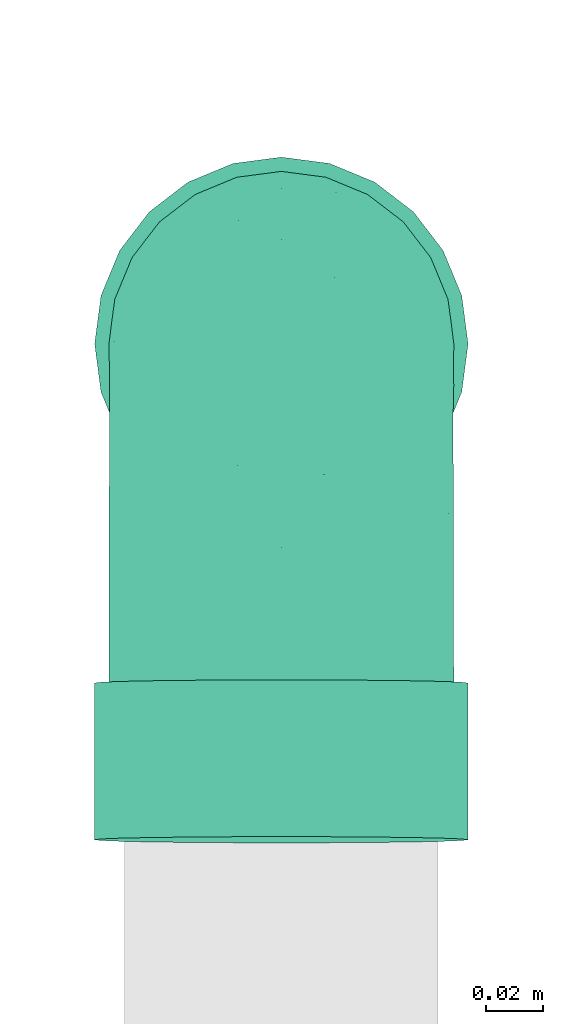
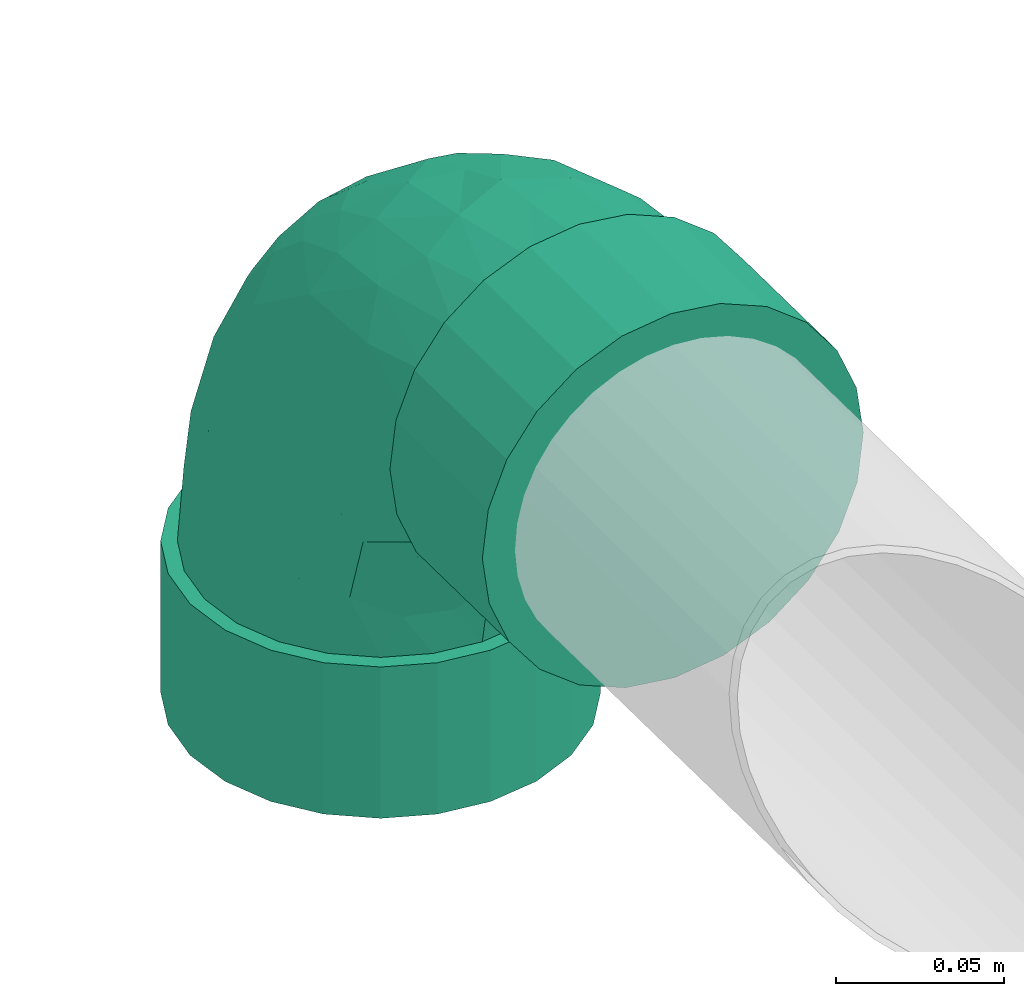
# One storey, part 12 of 13: 1 flow fitting.
"""IFC2X3 building model written with IfcOpenShell, lengths in millimetres."""

from ifc_helpers import new_model, entity, si_unit, converted_unit, derived_unit, direction, frame, origin_with_axes, place, context, subcontext, project, spatial, open_shell, surface_model, source, transform, mapped, type_object, element, save


model = new_model("IFC2X3")

# Units and contexts
model_context = context("Model", 3, precision=0.01, world=frame((0.0, 4.29681676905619e-09, 0.0)), true_north=direction((4.01073788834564e-13, 1.0)))
plan_context = context("Plan", 3, precision=0.01, world=frame((0.0, 4.29681676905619e-09, 0.0)), true_north=direction((4.01073788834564e-13, 1.0)))
body_context = subcontext(model_context, "Body", "Model", "MODEL_VIEW")
ifc_project = project(units=[converted_unit("PLANEANGLEUNIT", "DEGREE", entity("IfcPositiveLengthMeasure", 0.0174532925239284), si_unit("PLANEANGLEUNIT", "RADIAN"), dimensions=[0, 0, 0, 0, 0, 0, 0]), si_unit("AREAUNIT", "SQUARE_METRE"), si_unit("LENGTHUNIT", "METRE", prefix="MILLI"), si_unit("MASSUNIT", "GRAM", prefix="KILO"), si_unit("POWERUNIT", "WATT"), si_unit("PRESSUREUNIT", "PASCAL", prefix="KILO"), si_unit("FORCEUNIT", "NEWTON", prefix="KILO"), si_unit("ELECTRICVOLTAGEUNIT", "VOLT"), si_unit("ELECTRICCURRENTUNIT", "AMPERE"), si_unit("THERMODYNAMICTEMPERATUREUNIT", "DEGREE_CELSIUS"), si_unit("TIMEUNIT", "SECOND"), si_unit("VOLUMEUNIT", "CUBIC_METRE"), derived_unit("LINEARVELOCITYUNIT", [(si_unit("LENGTHUNIT", "METRE"), 1), (si_unit("TIMEUNIT", "SECOND"), -1)]), derived_unit("VOLUMETRICFLOWRATEUNIT", [(si_unit("VOLUMEUNIT", "CUBIC_METRE"), 1), (si_unit("TIMEUNIT", "SECOND"), -1)]), derived_unit("THERMALTRANSMITTANCEUNIT", [(si_unit("POWERUNIT", "WATT"), 1), (si_unit("THERMODYNAMICTEMPERATUREUNIT", "KELVIN"), -1), (si_unit("AREAUNIT", "SQUARE_METRE"), -1)]), derived_unit("SOUNDPRESSUREUNIT", [(si_unit("PRESSUREUNIT", "PASCAL"), 1)])], contexts=[model_context, plan_context])

# Site, building, storey
site_placement = place(None, frame((0.0, -4.29681676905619e-09, 0.0), z_axis=(0.0, 0.0, 1.0), x_axis=(1.0, 0.0, 0.0)))
site = spatial("IfcSite", under=ifc_project, at=site_placement, Name="ENGM", CompositionType="ELEMENT")
building_placement = place(site_placement, frame((0.0, 4.29681676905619e-09, 0.0), z_axis=(0.0, 0.0, 1.0), x_axis=(1.0, 0.0, 0.0)))
building = spatial("IfcBuilding", under=site, at=building_placement, Name="TI", CompositionType="ELEMENT")
storey_placement = place(building_placement, frame((0.0, 0.0, 210900.0), z_axis=(0.0, 0.0, 1.0), x_axis=(1.0, 0.0, 0.0)))
storey = spatial("IfcBuildingStorey", under=building, at=storey_placement, Name="Nivå F", CompositionType="ELEMENT", Elevation=210900.0)

# Flow fitting
pipe_fitting_type = type_object("IfcPipeFittingType", Name="magi_sewer_bend_001", PredefinedType="BEND")
shared_shape = source(origin_with_axes(), body_context, "Body", "SurfaceModel", [
    surface_model("IfcShellBasedSurfaceModel", [(-174.00014, -16.95265, -63.26814), (-174.00014, -32.75, -56.72466), (-174.00014, -46.3155, -46.3155), (-174.00014, -63.26814, -16.95265), (-174.00014, 63.26814, 16.95265), (-174.00014, 46.3155, -46.3155), (-174.00014, -56.72466, -32.75), (-174.00014, 16.95265, -63.26814), (-174.00014, 0.0, -65.5), (-174.00014, 32.75, -56.72466), (-174.00014, 56.72466, -32.75), (-174.00014, 65.5, 0.0), (-174.00014, 63.26814, -16.95265), (-174.00014, -65.5, 0.0), (-174.00014, -56.72466, 32.75), (-174.00014, -46.3155, 46.3155), (-174.00014, -16.95265, 63.26814), (-174.00014, -32.75, 56.72466), (-174.00014, 0.0, 65.5), (-174.00014, 46.3155, 46.3155), (-174.00014, 56.72466, 32.75), (-174.00014, 16.95265, 63.26814), (-174.00014, 32.75, 56.72466), (-174.00014, -63.26814, 16.95265), (-119.00014, -16.95265, 63.26814), (-119.00014, 16.95265, 63.26814), (-119.00014, 0.0, 65.5), (-119.00014, -46.3155, 46.3155), (-119.00014, -32.75, 56.72466), (-119.00014, -56.72466, 32.75), (-119.00014, -63.26814, 16.95265), (-119.00014, 63.26814, 16.95265), (-119.00014, 46.3155, 46.3155), (-119.00014, 32.75, 56.72466), (-119.00014, 56.72466, 32.75), (-119.00014, 65.5, 0.0), (-119.00014, -65.5, 0.0), (-119.00014, -63.26814, -16.95265), (-119.00014, 46.3155, -46.3155), (-119.00014, -46.3155, -46.3155), (-119.00014, -56.72466, -32.75), (-119.00014, -32.75, -56.72466), (-119.00014, -16.95265, -63.26814), (-119.00014, 56.72466, -32.75), (-119.00014, 63.26814, -16.95265), (-119.00014, 16.95265, -63.26814), (-119.00014, 32.75, -56.72466), (-119.00014, 0.0, -65.5), (-60.35976, 175.0303, 16.95265), (-53.81719, 174.92126, 32.75), (-43.40946, 174.7478, 46.3155), (-14.05069, 174.25848, 63.26814), (-62.59131, 175.06749, 0.0), (-29.84585, 174.52174, 56.72466), (2.8996, 173.97597, 65.5), (-53.81719, 174.92126, -32.75), (-60.35976, 175.0303, -16.95265), (-43.40946, 174.7478, -46.3155), (-29.84585, 174.52174, -56.72466), (2.8996, 173.97597, -65.5), (-14.05069, 174.25848, -63.26814), (19.84989, 173.69347, 63.26814), (35.64505, 173.43022, 56.72466), (49.20866, 173.20416, 46.3155), (19.84989, 173.69347, -63.26814), (66.15896, 172.92166, 16.95265), (68.3905, 172.88447, 0.0), (59.61639, 173.0307, 32.75), (49.20866, 173.20416, -46.3155), (35.64505, 173.43022, -56.72466), (66.15896, 172.92166, -16.95265), (59.61639, 173.0307, -32.75), (65.24242, 117.92929, 16.95265), (18.93335, 118.70111, -63.26814), (67.47397, 117.8921, 0.0), (48.29212, 118.2118, 46.3155), (58.69985, 118.03833, 32.75), (34.72851, 118.43786, 56.72466), (18.93335, 118.70111, 63.26814), (-30.76239, 119.52937, -56.72466), (65.24242, 117.92929, -16.95265), (48.29212, 118.2118, -46.3155), (58.69985, 118.03833, -32.75), (34.72851, 118.43786, -56.72466), (1.98306, 118.98362, -65.5), (-14.96723, 119.26612, 63.26814), (-61.2763, 120.03794, 16.95265), (-30.76239, 119.52937, 56.72466), (-44.326, 119.75544, 46.3155), (-54.73373, 119.92889, 32.75), (-44.326, 119.75544, -46.3155), (-14.96723, 119.26612, -63.26814), (-61.2763, 120.03794, -16.95265), (-54.73373, 119.92889, -32.75), (-63.50784, 120.07513, 0.0), (1.98306, 118.98362, 65.5), (-119.00014, 15.65855, -58.43851), (-119.00014, 0.0, -60.5), (-119.00014, 58.43851, -15.65855), (-119.00014, 30.25, -52.39454), (-119.00014, 52.39454, -30.25), (-119.00014, 42.77996, -42.77996), (-119.00014, -60.5, 0.0), (-119.00014, -30.25, -52.39454), (-119.00014, -42.77996, -42.77996), (-119.00014, -15.65855, -58.43851), (-119.00014, -58.43851, -15.65855), (-119.00014, -52.39454, -30.25), (-119.00014, -58.43851, 15.65855), (-119.00014, 58.43851, 15.65855), (-119.00014, 52.39454, 30.25), (-119.00014, 42.77996, 42.77996), (-119.00014, 30.25, 52.39454), (-119.00014, 15.65855, 58.43851), (-119.00014, -52.39454, 30.25), (-119.00014, -42.77996, 42.77996), (-119.00014, -30.25, 52.39454), (-119.00014, -15.65855, 58.43851), (-119.00014, 0.0, 60.5), (-119.00014, 60.5, 0.0), (1.98306, 118.98362, -60.5), (-13.67332, 119.24456, -58.43851), (-28.26274, 119.48771, -52.39454), (-40.79096, 119.69651, -42.77996), (-50.4042, 119.85674, -30.25), (-56.44734, 119.95745, -15.65855), (62.47466, 117.97542, 0.0), (32.22886, 118.47951, -52.39454), (54.37032, 118.1105, -30.25), (44.75708, 118.27072, -42.77996), (17.63944, 118.72268, -58.43851), (60.41346, 118.00978, -15.65855), (60.41346, 118.00978, 15.65855), (-56.44734, 119.95745, 15.65855), (-28.26274, 119.48771, 52.39454), (-50.4042, 119.85674, 30.25), (-40.79096, 119.69651, 42.77996), (-13.67332, 119.24456, 58.43851), (54.37032, 118.1105, 30.25), (32.22886, 118.47951, 52.39454), (44.75708, 118.27072, 42.77996), (17.63944, 118.72268, 58.43851), (1.98306, 118.98362, 60.5), (-58.50854, 119.9918, 0.0), (-86.96867, -47.00972, 34.00968), (-80.7819, -53.24129, 19.16737), (-72.5116, -54.44534, 0.0), (-89.08726, -56.60415, 0.0), (39.10086, 50.19741, 30.53174), (28.46675, 46.66826, 41.37372), (27.10486, 26.26643, 28.93951), (15.6131, 45.13, 50.36408), (15.04575, 19.2865, 37.76291), (-86.89894, -22.84389, 54.44468), (-45.38391, -14.85887, 50.36408), (-58.84928, -0.69632, 58.67437), (36.10726, 76.60456, 45.09177), (-77.19562, -34.82568, 45.09177), (-43.38966, -41.835, 15.30069), (-50.81815, -45.56532, 0.0), (-29.12469, -36.6853, 0.0), (-60.04164, 103.94237, 10.26064), (-68.71247, 84.86452, 13.0505), (-55.18446, 104.31342, 25.11937), (-103.01513, 36.62698, 49.25858), (-92.74998, 50.41099, 39.65912), (-81.72606, 68.63628, 21.03712), (-72.26232, 71.22128, 29.68156), (-20.02581, 58.58896, 60.3682), (-43.60086, 44.33359, 58.98152), (-35.10512, 25.97135, 60.22491), (-90.76971, -8.01993, 59.47818), (-20.87515, 103.00241, 56.64972), (-6.82454, 88.78959, 60.3476), (-82.9744, 9.26658, 60.39266), (-86.23765, 60.09892, 31.18136), (-99.51292, 59.70606, 21.14965), (-103.45871, 61.66716, 10.01393), (-84.31894, 70.43622, 9.89467), (-26.71447, -26.66338, 28.93951), (-19.53455, -14.72227, 37.76291), (-47.08157, -27.47335, 41.55099), (-76.57813, 77.86506, 0.0), (-96.08086, 65.00931, 0.0), (-91.33639, 23.74801, 57.13701), (-14.77502, 39.18153, 59.39632), (-28.69984, 11.00861, 56.62258), (-4.83421, 31.85984, 55.60311), (-9.89114, 10.05736, 49.62576), (44.13038, 45.82007, 14.96218), (55.64614, 71.59424, 0.0), (54.58007, 79.88344, 19.16737), (-64.95987, 25.67993, 59.41108), (-58.07521, 14.73739, 60.48167), (48.45247, 86.17322, 34.00968), (9.53143, 90.62347, 59.47818), (-50.84203, -38.25892, 30.53174), (58.08087, 88.13162, 0.0), (-48.14306, 76.43599, 47.63822), (-48.04586, 96.6209, 39.32696), (-62.58244, 66.82421, 42.77739), (-24.73556, 80.88675, 57.58424), (-63.39916, 97.15086, 0.0), (-36.69505, 92.46993, 50.11681), (-44.22551, 64.7195, 53.93366), (24.28883, 86.50619, 54.44468), (-63.12434, 40.58831, 55.92424), (-63.07462, 53.90164, 50.27785), (-81.88762, 40.91876, 50.87764), (-33.87244, 62.01368, 57.93391), (1.67691, 58.82951, 58.67437), (6.44015, -6.54838, 17.55786), (-10.4294, -22.54506, 0.0), (8.2659, -8.40481, 0.0), (23.51883, 13.41447, 18.60777), (13.30477, 6.6046, 27.47303), (-13.80454, -23.29202, 18.60777), (22.71573, 10.05225, 0.0), (-0.56725, 0.57678, 36.95386), (-3.90739, -10.13033, 28.29631), (37.16555, 28.50931, 0.0), (-60.70932, 85.30803, 29.80333), (46.40584, 50.05178, 0.0), (-99.55393, 36.96913, -49.52575), (-47.13616, -27.6851, -41.37372), (-45.38391, -14.85887, -50.36407), (-19.53455, -14.72227, -37.76291), (-88.66354, 8.30321, -60.3476), (24.28883, 86.50619, -54.44468), (15.6131, 45.12999, -50.36407), (1.6769, 58.8295, -58.67437), (-102.64024, 22.58872, -56.64972), (-68.71247, 84.86451, -13.0505), (-98.93529, 61.77779, -15.53658), (-60.04164, 103.94237, -10.26064), (-84.31894, 70.43622, -9.89467), (-50.84204, -38.25892, -30.53174), (-26.71447, -26.66338, -28.93951), (-56.98453, 48.01392, -54.99058), (-61.32494, 34.41782, -58.07217), (-76.37995, 43.81612, -50.8173), (-77.19562, -34.82568, -45.09177), (-58.24711, 20.99937, -60.3682), (-43.60086, 44.33359, -58.98152), (-25.38274, 35.53304, -60.22491), (-92.31551, 50.53005, -39.70651), (-80.7819, -53.24129, -19.16737), (-57.91698, 100.1219, -21.77038), (-59.85683, 85.88116, -30.55746), (-39.53074, 63.79195, -55.92424), (-22.22265, 91.71946, -57.13701), (-24.59385, 65.37879, -59.41108), (-86.96867, -47.00972, -34.00968), (-13.76756, 58.31273, -60.48167), (-86.89894, -22.84389, -54.44468), (-62.11182, 55.94126, -49.64549), (-39.54847, 82.55812, -50.87764), (-46.54912, -43.36069, -14.96218), (36.10726, 76.60456, -45.09177), (28.25413, 46.6172, -41.55099), (-90.76971, -8.01993, -59.47818), (-96.22555, 57.40199, -28.34878), (-76.12545, 65.40938, -32.8631), (48.45247, 86.17321, -34.00968), (39.10086, 50.19741, -30.53174), (-81.72606, 68.63628, -21.03712), (-7.88258, 83.1173, -60.39266), (27.10486, 26.26643, -28.93951), (15.04576, 19.2865, -37.76291), (-34.90521, 103.61119, -49.25858), (54.58007, 79.88344, -19.16737), (9.53143, 90.62347, -59.47818), (-51.30243, 78.81377, -44.27222), (-47.73366, 97.94443, -39.18321), (-38.92988, 15.4259, -59.39632), (-10.52882, 28.8793, -56.62258), (-31.77486, 5.36446, -55.60311), (42.55225, 42.68648, -15.30069), (-3.9074, -10.13034, -28.29631), (-13.80454, -23.29203, -18.60777), (-80.46332, 26.08004, -57.58424), (-65.77203, 63.68733, -42.77739), (-58.84928, -0.69632, -58.67437), (-9.89114, 10.05736, -49.62575), (6.44015, -6.54838, -17.55786), (13.30476, 6.6046, -27.47303), (-0.56725, 0.57678, -36.95385), (23.51883, 13.41448, -18.60777)], [open_shell([[[0, 1, 2]], [[0, 2, 3]], [[4, 5, 0]], [[3, 2, 6]], [[3, 4, 0]], [[0, 7, 8]], [[0, 9, 7]], [[5, 9, 0]], [[5, 4, 10]], [[10, 11, 12]], [[4, 3, 13]], [[14, 15, 13]], [[13, 15, 4]], [[15, 16, 4]], [[16, 15, 17]], [[18, 4, 16]], [[4, 19, 20]], [[11, 10, 4]], [[19, 21, 22]], [[21, 19, 4]], [[18, 21, 4]], [[23, 14, 13]], [[24, 25, 26]], [[27, 24, 28]], [[27, 29, 30]], [[25, 24, 27]], [[31, 27, 30]], [[25, 32, 33]], [[32, 25, 31]], [[32, 31, 34]], [[25, 27, 31]], [[30, 35, 31]], [[30, 36, 35]], [[37, 38, 36]], [[39, 37, 40]], [[39, 41, 42]], [[39, 42, 37]], [[38, 37, 42]], [[36, 38, 43]], [[44, 35, 43]], [[42, 45, 46]], [[46, 38, 42]], [[42, 47, 45]], [[43, 35, 36]], [[44, 12, 35]], [[43, 10, 44]], [[45, 47, 7]], [[38, 5, 43]], [[44, 10, 12]], [[12, 11, 35]], [[9, 46, 7]], [[9, 5, 38]], [[46, 45, 7]], [[5, 10, 43]], [[38, 46, 9]], [[47, 8, 7]], [[0, 42, 41]], [[39, 1, 41]], [[6, 40, 37]], [[39, 40, 2]], [[3, 37, 36]], [[42, 0, 8]], [[41, 1, 0]], [[39, 2, 1]], [[40, 6, 2]], [[3, 6, 37]], [[36, 13, 3]], [[42, 8, 47]], [[30, 23, 36]], [[29, 14, 30]], [[28, 17, 27]], [[27, 15, 29]], [[30, 14, 23]], [[23, 13, 36]], [[18, 16, 24]], [[16, 17, 28]], [[15, 27, 17]], [[15, 14, 29]], [[24, 16, 28]], [[24, 26, 18]], [[21, 25, 33]], [[32, 22, 33]], [[20, 34, 31]], [[32, 34, 19]], [[4, 31, 35]], [[25, 21, 18]], [[33, 22, 21]], [[32, 19, 22]], [[34, 20, 19]], [[4, 20, 31]], [[35, 11, 4]], [[25, 18, 26]], [[48, 49, 50]], [[48, 50, 51]], [[48, 51, 52]], [[51, 50, 53]], [[52, 51, 54]], [[52, 55, 56]], [[52, 54, 55]], [[57, 55, 54]], [[54, 58, 57]], [[58, 59, 60]], [[58, 54, 61]], [[61, 62, 63]], [[58, 63, 64]], [[65, 66, 63]], [[65, 63, 67]], [[64, 63, 66]], [[64, 68, 69]], [[59, 58, 64]], [[68, 70, 71]], [[70, 68, 64]], [[66, 70, 64]], [[58, 61, 63]], [[72, 73, 74]], [[75, 72, 76]], [[75, 77, 78]], [[72, 75, 73]], [[73, 75, 79]], [[80, 81, 82]], [[81, 80, 73]], [[81, 73, 83]], [[80, 74, 73]], [[73, 79, 84]], [[75, 78, 85]], [[75, 85, 79]], [[86, 85, 87]], [[88, 89, 86]], [[88, 86, 87]], [[79, 85, 86]], [[86, 90, 79]], [[91, 84, 79]], [[86, 92, 93]], [[90, 86, 93]], [[92, 86, 94]], [[85, 78, 95]], [[91, 60, 84]], [[79, 58, 91]], [[92, 94, 56]], [[90, 57, 79]], [[91, 58, 60]], [[60, 59, 84]], [[55, 93, 56]], [[55, 57, 90]], [[93, 92, 56]], [[57, 58, 79]], [[90, 93, 55]], [[94, 52, 56]], [[48, 86, 89]], [[88, 49, 89]], [[53, 87, 85]], [[88, 87, 50]], [[51, 85, 95]], [[86, 48, 52]], [[89, 49, 48]], [[88, 50, 49]], [[87, 53, 50]], [[51, 53, 85]], [[95, 54, 51]], [[86, 52, 94]], [[78, 61, 95]], [[77, 62, 78]], [[76, 67, 75]], [[75, 63, 77]], [[78, 62, 61]], [[61, 54, 95]], [[66, 65, 72]], [[65, 67, 76]], [[63, 75, 67]], [[63, 62, 77]], [[72, 65, 76]], [[72, 74, 66]], [[70, 80, 82]], [[81, 71, 82]], [[69, 83, 73]], [[81, 83, 68]], [[64, 73, 84]], [[80, 70, 66]], [[82, 71, 70]], [[81, 68, 71]], [[83, 69, 68]], [[64, 69, 73]], [[84, 59, 64]], [[80, 66, 74]], [[96, 97, 98]], [[99, 96, 98]], [[98, 100, 101]], [[99, 98, 101]], [[102, 98, 97]], [[103, 104, 105]], [[104, 97, 105]], [[106, 102, 107]], [[104, 107, 102]], [[104, 102, 97]], [[102, 108, 98]], [[109, 98, 108]], [[110, 109, 111]], [[112, 109, 108]], [[111, 109, 112]], [[113, 112, 108]], [[114, 115, 108]], [[116, 108, 115]], [[117, 118, 116]], [[108, 116, 118]], [[118, 113, 108]], [[119, 98, 109]], [[120, 121, 122]], [[120, 122, 123]], [[123, 124, 125]], [[123, 125, 120]], [[120, 125, 126]], [[127, 128, 129]], [[128, 127, 130]], [[128, 126, 131]], [[126, 128, 130]], [[130, 120, 126]], [[125, 132, 126]], [[132, 125, 133]], [[134, 133, 135]], [[132, 133, 134]], [[134, 135, 136]], [[132, 134, 137]], [[138, 139, 140]], [[139, 138, 132]], [[132, 141, 139]], [[141, 132, 142]], [[132, 137, 142]], [[133, 125, 143]], [[144, 114, 145]], [[146, 145, 147]], [[148, 149, 150]], [[145, 114, 108]], [[108, 147, 145]], [[149, 151, 152]], [[115, 114, 144]], [[153, 154, 155]], [[156, 140, 139]], [[157, 116, 115]], [[157, 153, 116]], [[158, 159, 160]], [[161, 162, 163]], [[111, 164, 165]], [[162, 166, 167]], [[110, 111, 165]], [[168, 169, 170]], [[112, 164, 111]], [[117, 171, 118]], [[137, 172, 173]], [[118, 174, 113]], [[175, 176, 110]], [[149, 148, 156]], [[119, 109, 177]], [[166, 178, 177]], [[179, 180, 181]], [[182, 183, 178]], [[184, 113, 174]], [[113, 184, 112]], [[185, 186, 187]], [[188, 154, 180]], [[166, 177, 176]], [[189, 190, 191]], [[192, 193, 170]], [[148, 191, 194]], [[184, 164, 112]], [[189, 191, 148]], [[141, 142, 195]], [[144, 196, 157]], [[191, 132, 138]], [[133, 163, 135]], [[194, 191, 138]], [[145, 146, 159]], [[191, 197, 132]], [[138, 140, 194]], [[198, 199, 200]], [[201, 168, 173]], [[178, 162, 182]], [[118, 171, 174]], [[202, 161, 143]], [[134, 136, 203]], [[182, 162, 202]], [[175, 167, 166]], [[203, 201, 172]], [[204, 201, 203]], [[135, 163, 199]], [[205, 139, 141]], [[116, 153, 117]], [[156, 205, 151]], [[134, 172, 137]], [[142, 137, 173]], [[154, 157, 181]], [[161, 202, 162]], [[156, 139, 205]], [[206, 184, 192]], [[198, 207, 204]], [[207, 165, 208]], [[176, 175, 166]], [[199, 136, 135]], [[209, 204, 169]], [[201, 209, 168]], [[195, 173, 210]], [[154, 153, 157]], [[171, 153, 155]], [[154, 181, 180]], [[154, 188, 186]], [[195, 205, 141]], [[210, 187, 151]], [[210, 151, 205]], [[151, 188, 152]], [[211, 212, 213]], [[211, 214, 215]], [[216, 158, 160]], [[211, 217, 214]], [[180, 218, 188]], [[219, 180, 179]], [[150, 215, 214]], [[189, 214, 220]], [[196, 144, 145]], [[157, 115, 144]], [[140, 156, 194]], [[148, 194, 156]], [[192, 184, 174]], [[164, 184, 208]], [[177, 178, 183]], [[162, 178, 166]], [[119, 177, 183]], [[177, 109, 176]], [[109, 110, 176]], [[175, 110, 165]], [[165, 200, 175]], [[167, 200, 221]], [[203, 198, 204]], [[206, 207, 208]], [[192, 170, 169]], [[210, 173, 168]], [[186, 170, 155]], [[168, 170, 185]], [[173, 195, 142]], [[205, 195, 210]], [[153, 171, 117]], [[174, 171, 155]], [[200, 199, 221]], [[203, 136, 199]], [[192, 174, 193]], [[206, 192, 169]], [[204, 206, 169]], [[184, 206, 208]], [[204, 207, 206]], [[165, 207, 200]], [[174, 155, 193]], [[155, 170, 193]], [[200, 167, 175]], [[162, 167, 221]], [[154, 186, 155]], [[187, 186, 188]], [[151, 187, 188]], [[185, 187, 210]], [[168, 185, 210]], [[186, 185, 170]], [[163, 162, 221]], [[143, 161, 133]], [[108, 102, 147]], [[197, 191, 190]], [[197, 126, 132]], [[165, 164, 208]], [[203, 172, 134]], [[173, 172, 201]], [[161, 163, 133]], [[199, 163, 221]], [[216, 179, 158]], [[159, 158, 145]], [[145, 158, 196]], [[189, 148, 150]], [[189, 222, 190]], [[157, 196, 181]], [[179, 181, 196]], [[158, 179, 196]], [[219, 179, 216]], [[219, 216, 211]], [[218, 180, 219]], [[211, 216, 212]], [[168, 209, 169]], [[215, 218, 219]], [[188, 218, 152]], [[216, 160, 212]], [[151, 149, 156]], [[150, 149, 152]], [[152, 218, 215]], [[189, 150, 214]], [[152, 215, 150]], [[211, 215, 219]], [[217, 211, 213]], [[217, 220, 214]], [[201, 204, 209]], [[199, 198, 203]], [[207, 198, 200]], [[189, 220, 222]], [[99, 101, 223]], [[224, 225, 226]], [[97, 96, 227]], [[228, 229, 230]], [[96, 99, 231]], [[182, 202, 232]], [[183, 233, 119]], [[202, 234, 232]], [[235, 233, 183]], [[236, 224, 237]], [[238, 239, 240]], [[241, 224, 236]], [[242, 243, 244]], [[100, 245, 101]], [[107, 246, 106]], [[247, 124, 248]], [[246, 147, 106]], [[249, 250, 251]], [[246, 107, 252]], [[251, 253, 244]], [[241, 103, 254]], [[249, 255, 256]], [[245, 240, 223]], [[131, 126, 197]], [[257, 146, 246]], [[229, 258, 259]], [[260, 105, 97]], [[236, 246, 252]], [[241, 254, 225]], [[245, 261, 262]], [[182, 235, 183]], [[263, 264, 258]], [[265, 235, 232]], [[250, 121, 266]], [[125, 234, 143]], [[267, 268, 259]], [[254, 103, 105]], [[265, 232, 248]], [[122, 269, 123]], [[263, 128, 270]], [[122, 121, 250]], [[120, 271, 266]], [[241, 104, 103]], [[272, 248, 273]], [[124, 273, 248]], [[120, 130, 271]], [[129, 258, 127]], [[96, 231, 227]], [[274, 275, 276]], [[222, 220, 277]], [[237, 278, 279]], [[228, 127, 258]], [[270, 128, 131]], [[280, 242, 227]], [[270, 197, 190]], [[107, 104, 252]], [[124, 123, 273]], [[197, 270, 131]], [[127, 228, 130]], [[128, 263, 129]], [[120, 266, 121]], [[233, 261, 98]], [[257, 246, 236]], [[281, 262, 248]], [[270, 190, 222]], [[232, 234, 247]], [[261, 233, 265]], [[240, 245, 281]], [[280, 239, 242]], [[260, 227, 282]], [[260, 254, 105]], [[282, 276, 225]], [[282, 225, 254]], [[225, 283, 226]], [[229, 228, 258]], [[271, 228, 230]], [[229, 259, 268]], [[229, 283, 275]], [[268, 283, 229]], [[284, 212, 279]], [[285, 268, 267]], [[257, 279, 160]], [[284, 217, 213]], [[283, 268, 286]], [[287, 277, 220]], [[278, 284, 279]], [[104, 241, 252]], [[236, 252, 241]], [[264, 263, 270]], [[258, 129, 263]], [[251, 250, 266]], [[269, 250, 256]], [[249, 238, 255]], [[280, 231, 223]], [[232, 235, 182]], [[233, 235, 265]], [[262, 261, 265]], [[233, 98, 119]], [[245, 100, 261]], [[98, 261, 100]], [[251, 244, 243]], [[282, 227, 242]], [[275, 244, 230]], [[242, 244, 274]], [[227, 260, 97]], [[254, 260, 282]], [[228, 271, 130]], [[266, 271, 230]], [[248, 262, 265]], [[245, 262, 281]], [[269, 273, 123]], [[272, 273, 256]], [[251, 266, 253]], [[249, 251, 243]], [[238, 249, 243]], [[250, 249, 256]], [[239, 238, 243]], [[255, 238, 240]], [[266, 230, 253]], [[230, 244, 253]], [[242, 239, 243]], [[240, 239, 280]], [[240, 281, 255]], [[255, 281, 272]], [[245, 223, 101]], [[280, 223, 240]], [[229, 275, 230]], [[276, 275, 283]], [[225, 276, 283]], [[274, 276, 282]], [[242, 274, 282]], [[275, 274, 244]], [[143, 234, 202]], [[247, 234, 125]], [[124, 247, 125]], [[232, 247, 248]], [[147, 246, 146]], [[147, 102, 106]], [[250, 269, 122]], [[273, 269, 256]], [[223, 231, 99]], [[227, 231, 280]], [[257, 236, 237]], [[257, 159, 146]], [[287, 267, 277]], [[222, 277, 270]], [[270, 277, 264]], [[225, 224, 241]], [[237, 224, 226]], [[278, 237, 226]], [[257, 237, 279]], [[286, 278, 226]], [[278, 285, 284]], [[284, 287, 217]], [[258, 264, 259]], [[283, 286, 226]], [[285, 286, 268]], [[212, 284, 213]], [[212, 160, 279]], [[267, 259, 264]], [[277, 267, 264]], [[285, 267, 287]], [[284, 285, 287]], [[285, 278, 286]], [[287, 220, 217]], [[255, 272, 256]], [[248, 272, 281]], [[257, 160, 159]]])]),
])
flow_fitting_placement = place(storey_placement, frame((594026.70284, 573635.60038, -757.33713), z_axis=(-1.0, 0.0, 0.0), x_axis=(0.0, 0.999861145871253, -0.0166640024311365)))
element("IfcFlowFitting", 1, at=flow_fitting_placement, inside=storey, type_object=pipe_fitting_type, Name="magi_sewer_bend_001", context=body_context, shape_type="MappedRepresentation", body=[
    mapped(shared_shape, transform((0.0, 0.0, 0.0), scale=1.0)),
])

save(model, "model.ifc")
